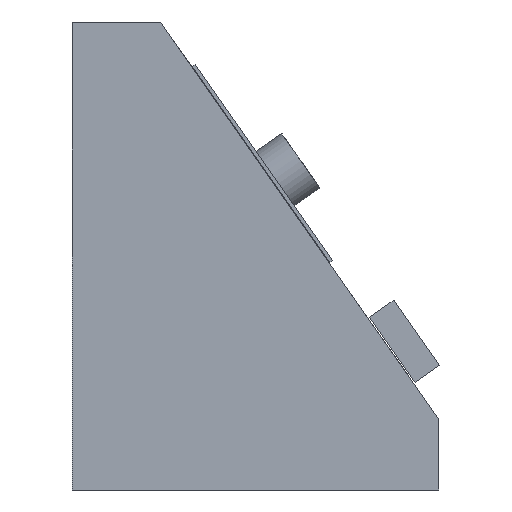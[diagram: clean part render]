
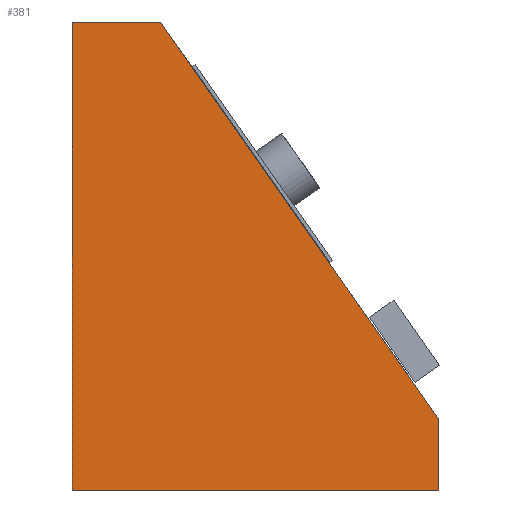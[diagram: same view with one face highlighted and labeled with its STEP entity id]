
A CAD part, left-side view. The second image highlights one B-rep face of the part: STEP entity #381.
In plain terms, the highlighted planar face has unit normal (-1, 0, 0).
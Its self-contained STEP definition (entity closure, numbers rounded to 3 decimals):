
#84 = VERTEX_POINT('',#85);
#85 = CARTESIAN_POINT('',(0.,0.,0.));
#94 = PLANE('',#95);
#95 = AXIS2_PLACEMENT_3D('',#96,#97,#98);
#96 = CARTESIAN_POINT('',(0.,0.,0.));
#97 = DIRECTION('',(0.,0.,1.));
#98 = DIRECTION('',(0.,1.,0.));
#106 = PLANE('',#107);
#107 = AXIS2_PLACEMENT_3D('',#108,#109,#110);
#108 = CARTESIAN_POINT('',(0.,0.,16.));
#109 = DIRECTION('',(-0.,1.,0.));
#110 = DIRECTION('',(0.,0.,-1.));
#147 = VERTEX_POINT('',#148);
#148 = CARTESIAN_POINT('',(0.,83.093,0.));
#162 = PLANE('',#163);
#163 = AXIS2_PLACEMENT_3D('',#164,#165,#166);
#164 = CARTESIAN_POINT('',(0.,83.093,0.));
#165 = DIRECTION('',(0.,-1.,0.));
#166 = DIRECTION('',(0.,0.,1.));
#174 = EDGE_CURVE('',#84,#147,#175,.T.);
#175 = SURFACE_CURVE('',#176,(#180,#187),.PCURVE_S1.);
#176 = LINE('',#177,#178);
#177 = CARTESIAN_POINT('',(0.,0.,0.));
#178 = VECTOR('',#179,1.);
#179 = DIRECTION('',(0.,1.,0.));
#180 = PCURVE('',#94,#181);
#181 = DEFINITIONAL_REPRESENTATION('',(#182),#186);
#182 = LINE('',#183,#184);
#183 = CARTESIAN_POINT('',(0.,0.));
#184 = VECTOR('',#185,1.);
#185 = DIRECTION('',(1.,0.));
#186 = ( GEOMETRIC_REPRESENTATION_CONTEXT(2) 
PARAMETRIC_REPRESENTATION_CONTEXT() REPRESENTATION_CONTEXT('2D SPACE',''
  ) );
#187 = PCURVE('',#188,#193);
#188 = PLANE('',#189);
#189 = AXIS2_PLACEMENT_3D('',#190,#191,#192);
#190 = CARTESIAN_POINT('',(0.,51.316,43.542));
#191 = DIRECTION('',(1.,0.,0.));
#192 = DIRECTION('',(-0.,0.,1.));
#193 = DEFINITIONAL_REPRESENTATION('',(#194),#198);
#194 = LINE('',#195,#196);
#195 = CARTESIAN_POINT('',(-43.542,51.316));
#196 = VECTOR('',#197,1.);
#197 = DIRECTION('',(0.,-1.));
#198 = ( GEOMETRIC_REPRESENTATION_CONTEXT(2) 
PARAMETRIC_REPRESENTATION_CONTEXT() REPRESENTATION_CONTEXT('2D SPACE',''
  ) );
#310 = VERTEX_POINT('',#311);
#311 = CARTESIAN_POINT('',(0.,0.,16.));
#327 = PLANE('',#328);
#328 = AXIS2_PLACEMENT_3D('',#329,#330,#331);
#329 = CARTESIAN_POINT('',(0.,63.093,106.107));
#330 = DIRECTION('',(0.,0.819,-0.574));
#331 = DIRECTION('',(0.,-0.574,-0.819));
#361 = EDGE_CURVE('',#310,#84,#362,.T.);
#362 = SURFACE_CURVE('',#363,(#367,#374),.PCURVE_S1.);
#363 = LINE('',#364,#365);
#364 = CARTESIAN_POINT('',(0.,0.,16.));
#365 = VECTOR('',#366,1.);
#366 = DIRECTION('',(0.,0.,-1.));
#367 = PCURVE('',#106,#368);
#368 = DEFINITIONAL_REPRESENTATION('',(#369),#373);
#369 = LINE('',#370,#371);
#370 = CARTESIAN_POINT('',(0.,0.));
#371 = VECTOR('',#372,1.);
#372 = DIRECTION('',(1.,0.));
#373 = ( GEOMETRIC_REPRESENTATION_CONTEXT(2) 
PARAMETRIC_REPRESENTATION_CONTEXT() REPRESENTATION_CONTEXT('2D SPACE',''
  ) );
#374 = PCURVE('',#188,#375);
#375 = DEFINITIONAL_REPRESENTATION('',(#376),#380);
#376 = LINE('',#377,#378);
#377 = CARTESIAN_POINT('',(-27.542,51.316));
#378 = VECTOR('',#379,1.);
#379 = DIRECTION('',(-1.,0.));
#380 = ( GEOMETRIC_REPRESENTATION_CONTEXT(2) 
PARAMETRIC_REPRESENTATION_CONTEXT() REPRESENTATION_CONTEXT('2D SPACE',''
  ) );
#381 = ADVANCED_FACE('',(#382),#188,.F.);
#382 = FACE_BOUND('',#383,.F.);
#383 = EDGE_LOOP('',(#384,#385,#408,#436,#457));
#384 = ORIENTED_EDGE('',*,*,#174,.T.);
#385 = ORIENTED_EDGE('',*,*,#386,.T.);
#386 = EDGE_CURVE('',#147,#387,#389,.T.);
#387 = VERTEX_POINT('',#388);
#388 = CARTESIAN_POINT('',(0.,83.093,106.107));
#389 = SURFACE_CURVE('',#390,(#394,#401),.PCURVE_S1.);
#390 = LINE('',#391,#392);
#391 = CARTESIAN_POINT('',(0.,83.093,0.));
#392 = VECTOR('',#393,1.);
#393 = DIRECTION('',(0.,0.,1.));
#394 = PCURVE('',#188,#395);
#395 = DEFINITIONAL_REPRESENTATION('',(#396),#400);
#396 = LINE('',#397,#398);
#397 = CARTESIAN_POINT('',(-43.542,-31.778));
#398 = VECTOR('',#399,1.);
#399 = DIRECTION('',(1.,0.));
#400 = ( GEOMETRIC_REPRESENTATION_CONTEXT(2) 
PARAMETRIC_REPRESENTATION_CONTEXT() REPRESENTATION_CONTEXT('2D SPACE',''
  ) );
#401 = PCURVE('',#162,#402);
#402 = DEFINITIONAL_REPRESENTATION('',(#403),#407);
#403 = LINE('',#404,#405);
#404 = CARTESIAN_POINT('',(0.,0.));
#405 = VECTOR('',#406,1.);
#406 = DIRECTION('',(1.,0.));
#407 = ( GEOMETRIC_REPRESENTATION_CONTEXT(2) 
PARAMETRIC_REPRESENTATION_CONTEXT() REPRESENTATION_CONTEXT('2D SPACE',''
  ) );
#408 = ORIENTED_EDGE('',*,*,#409,.T.);
#409 = EDGE_CURVE('',#387,#410,#412,.T.);
#410 = VERTEX_POINT('',#411);
#411 = CARTESIAN_POINT('',(0.,63.093,106.107));
#412 = SURFACE_CURVE('',#413,(#417,#424),.PCURVE_S1.);
#413 = LINE('',#414,#415);
#414 = CARTESIAN_POINT('',(0.,83.093,106.107));
#415 = VECTOR('',#416,1.);
#416 = DIRECTION('',(0.,-1.,0.));
#417 = PCURVE('',#188,#418);
#418 = DEFINITIONAL_REPRESENTATION('',(#419),#423);
#419 = LINE('',#420,#421);
#420 = CARTESIAN_POINT('',(62.565,-31.778));
#421 = VECTOR('',#422,1.);
#422 = DIRECTION('',(0.,1.));
#423 = ( GEOMETRIC_REPRESENTATION_CONTEXT(2) 
PARAMETRIC_REPRESENTATION_CONTEXT() REPRESENTATION_CONTEXT('2D SPACE',''
  ) );
#424 = PCURVE('',#425,#430);
#425 = PLANE('',#426);
#426 = AXIS2_PLACEMENT_3D('',#427,#428,#429);
#427 = CARTESIAN_POINT('',(0.,83.093,106.107));
#428 = DIRECTION('',(0.,0.,-1.));
#429 = DIRECTION('',(0.,-1.,0.));
#430 = DEFINITIONAL_REPRESENTATION('',(#431),#435);
#431 = LINE('',#432,#433);
#432 = CARTESIAN_POINT('',(0.,-0.));
#433 = VECTOR('',#434,1.);
#434 = DIRECTION('',(1.,0.));
#435 = ( GEOMETRIC_REPRESENTATION_CONTEXT(2) 
PARAMETRIC_REPRESENTATION_CONTEXT() REPRESENTATION_CONTEXT('2D SPACE',''
  ) );
#436 = ORIENTED_EDGE('',*,*,#437,.T.);
#437 = EDGE_CURVE('',#410,#310,#438,.T.);
#438 = SURFACE_CURVE('',#439,(#443,#450),.PCURVE_S1.);
#439 = LINE('',#440,#441);
#440 = CARTESIAN_POINT('',(0.,63.093,106.107));
#441 = VECTOR('',#442,1.);
#442 = DIRECTION('',(0.,-0.574,-0.819));
#443 = PCURVE('',#188,#444);
#444 = DEFINITIONAL_REPRESENTATION('',(#445),#449);
#445 = LINE('',#446,#447);
#446 = CARTESIAN_POINT('',(62.565,-11.778));
#447 = VECTOR('',#448,1.);
#448 = DIRECTION('',(-0.819,0.574));
#449 = ( GEOMETRIC_REPRESENTATION_CONTEXT(2) 
PARAMETRIC_REPRESENTATION_CONTEXT() REPRESENTATION_CONTEXT('2D SPACE',''
  ) );
#450 = PCURVE('',#327,#451);
#451 = DEFINITIONAL_REPRESENTATION('',(#452),#456);
#452 = LINE('',#453,#454);
#453 = CARTESIAN_POINT('',(0.,0.));
#454 = VECTOR('',#455,1.);
#455 = DIRECTION('',(1.,0.));
#456 = ( GEOMETRIC_REPRESENTATION_CONTEXT(2) 
PARAMETRIC_REPRESENTATION_CONTEXT() REPRESENTATION_CONTEXT('2D SPACE',''
  ) );
#457 = ORIENTED_EDGE('',*,*,#361,.T.);
